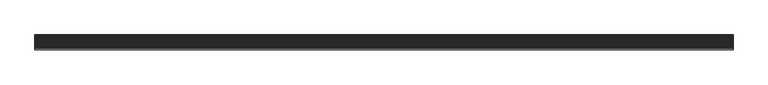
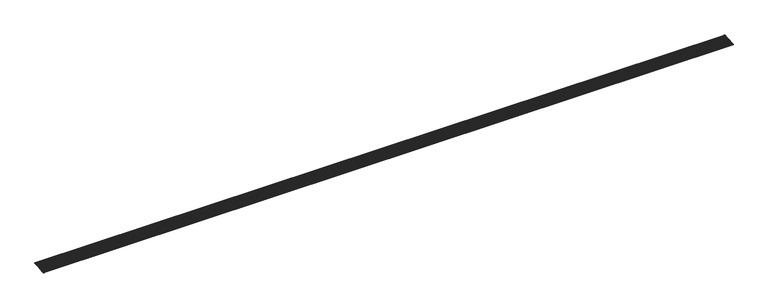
"""IFC4 building model written with IfcOpenShell, lengths in millimetres: slab geometry, ROSA GRES_001 (2 filas) : Piezas 001_Aqua_Blanco_Anti-Slip."""

from ifc_helpers import new_model, si_unit, point, frame, frame_2d, origin, place, context, project, spatial, polyline, circle_curve, trimmed, segment, composite_curve, outline, extrude, source, transform, mapped, element, save


def slab_2bb9063e(model_context):
    return source(origin(), model_context, "Body", "SweptSolid", [
        extrude(outline(polyline([(0.0, -118.9996), (0.0, 0.0), (11460.0, 0.0), (11460.0, -118.9996), (0.0, -118.9996)])), frame((11460.0, 124.0577627, 199.6968204), z_axis=(0.0, -0.08112705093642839, 0.9967037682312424), x_axis=(-1.0, 0.0, 0.0)), (0.0, 0.0, 1.0), 5.0),
        extrude(outline(polyline([(0.0, -118.9996), (0.0, 0.0), (11460.0, 0.0), (11460.0, -118.9996), (0.0, -118.9996)])), frame((11460.0, 248.6453351, 209.8376693), z_axis=(0.0, -0.08112705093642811, 0.9967037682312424), x_axis=(-1.0, 0.0, 0.0)), (0.0, 0.0, 1.0), 5.0),
        extrude(outline(composite_curve([segment(polyline([(242.2594772, 214.3344258), (123.6521274, 204.6803392), (123.4389282, 207.2996439)]), True, "CONTINUOUS"), segment(trimmed(circle_curve(frame_2d((122.9853249, 212.8724843)), 5.5912705), [point((123.4389282, 207.2996439))], [point((127.5160501, 209.5960785))], True, "CARTESIAN"), True, "CONTINUOUS"), segment(trimmed(circle_curve(frame_2d((131.4572785, 213.5620619)), 5.5912705), [point((127.5160501, 209.5960785))], [point((135.9880037, 210.2856561))], True, "CARTESIAN"), True, "CONTINUOUS"), segment(trimmed(circle_curve(frame_2d((139.929232, 214.2516395)), 5.5912705), [point((135.9880037, 210.2856561))], [point((144.4599572, 210.9752337))], True, "CARTESIAN"), True, "CONTINUOUS"), segment(trimmed(circle_curve(frame_2d((148.4011856, 214.9412171)), 5.5912705), [point((144.4599572, 210.9752337))], [point((152.9319108, 211.6648113))], True, "CARTESIAN"), True, "CONTINUOUS"), segment(trimmed(circle_curve(frame_2d((156.8731392, 215.6307947)), 5.5912705), [point((152.9319108, 211.6648113))], [point((161.4038643, 212.3543889))], True, "CARTESIAN"), True, "CONTINUOUS"), segment(trimmed(circle_curve(frame_2d((165.3450927, 216.3203723)), 5.5912705), [point((161.4038643, 212.3543889))], [point((169.8758179, 213.0439666))], True, "CARTESIAN"), True, "CONTINUOUS"), segment(trimmed(circle_curve(frame_2d((173.8170463, 217.00995)), 5.5912705), [point((169.8758179, 213.0439666))], [point((178.3477714, 213.7335442))], True, "CARTESIAN"), True, "CONTINUOUS"), segment(trimmed(circle_curve(frame_2d((182.2889998, 217.6995276)), 5.5912705), [point((178.3477714, 213.7335442))], [point((186.819725, 214.4231218))], True, "CARTESIAN"), True, "CONTINUOUS"), segment(trimmed(circle_curve(frame_2d((190.7609534, 218.3891052)), 5.5912705), [point((186.819725, 214.4231218))], [point((195.2916785, 215.1126994))], True, "CARTESIAN"), True, "CONTINUOUS"), segment(trimmed(circle_curve(frame_2d((199.2329069, 219.0786828)), 5.5912705), [point((195.2916785, 215.1126994))], [point((203.7636321, 215.802277))], True, "CARTESIAN"), True, "CONTINUOUS"), segment(trimmed(circle_curve(frame_2d((207.7048605, 219.7682604)), 5.5912705), [point((203.7636321, 215.802277))], [point((212.2355856, 216.4918546))], True, "CARTESIAN"), True, "CONTINUOUS"), segment(trimmed(circle_curve(frame_2d((216.176814, 220.457838)), 5.5912705), [point((212.2355856, 216.4918546))], [point((220.7075392, 217.1814322))], True, "CARTESIAN"), True, "CONTINUOUS"), segment(trimmed(circle_curve(frame_2d((224.6487676, 221.1474157)), 5.5912705), [point((220.7075392, 217.1814322))], [point((229.1794928, 217.8710099))], True, "CARTESIAN"), True, "CONTINUOUS"), segment(trimmed(circle_curve(frame_2d((233.1207211, 221.8369933)), 5.5912705), [point((229.1794928, 217.8710099))], [point((237.6514463, 218.5605875))], True, "CARTESIAN"), True, "CONTINUOUS"), segment(trimmed(circle_curve(frame_2d((241.5926747, 222.5265709)), 5.5912705), [point((237.6514463, 218.5605875))], [point((242.046278, 216.9537305))], True, "CARTESIAN"), True, "CONTINUOUS"), segment(polyline([(242.046278, 216.9537305), (242.2594772, 214.3344258)]), True, "CONTINUOUS")], self_intersect=False)), frame((0.0, 0.0, 0.0), z_axis=(1.0, 0.0, 0.0), x_axis=(0.0, 1.0, 0.0)), (0.0, 0.0, 1.0), 11460.0),
        extrude(outline(composite_curve([segment(polyline([(366.8470495, 224.4752747), (248.2396998, 214.8211881), (248.0265006, 217.4404928)]), True, "CONTINUOUS"), segment(trimmed(circle_curve(frame_2d((247.5728973, 223.0133332)), 5.5912705), [point((248.0265006, 217.4404928))], [point((252.1036225, 219.7369274))], True, "CARTESIAN"), True, "CONTINUOUS"), segment(trimmed(circle_curve(frame_2d((256.0448508, 223.7029108)), 5.5912705), [point((252.1036225, 219.7369274))], [point((260.575576, 220.426505))], True, "CARTESIAN"), True, "CONTINUOUS"), segment(trimmed(circle_curve(frame_2d((264.5168044, 224.3924884)), 5.5912705), [point((260.575576, 220.426505))], [point((269.0475296, 221.1160826))], True, "CARTESIAN"), True, "CONTINUOUS"), segment(trimmed(circle_curve(frame_2d((272.9887579, 225.082066)), 5.5912705), [point((269.0475296, 221.1160826))], [point((277.5194831, 221.8056602))], True, "CARTESIAN"), True, "CONTINUOUS"), segment(trimmed(circle_curve(frame_2d((281.4607115, 225.7716436)), 5.5912705), [point((277.5194831, 221.8056602))], [point((285.9914367, 222.4952379))], True, "CARTESIAN"), True, "CONTINUOUS"), segment(trimmed(circle_curve(frame_2d((289.9326651, 226.4612213)), 5.5912705), [point((285.9914367, 222.4952379))], [point((294.4633902, 223.1848155))], True, "CARTESIAN"), True, "CONTINUOUS"), segment(trimmed(circle_curve(frame_2d((298.4046186, 227.1507989)), 5.5912705), [point((294.4633902, 223.1848155))], [point((302.9353438, 223.8743931))], True, "CARTESIAN"), True, "CONTINUOUS"), segment(trimmed(circle_curve(frame_2d((306.8765722, 227.8403765)), 5.5912705), [point((302.9353438, 223.8743931))], [point((311.4072973, 224.5639707))], True, "CARTESIAN"), True, "CONTINUOUS"), segment(trimmed(circle_curve(frame_2d((315.3485257, 228.5299541)), 5.5912705), [point((311.4072973, 224.5639707))], [point((319.8792509, 225.2535483))], True, "CARTESIAN"), True, "CONTINUOUS"), segment(trimmed(circle_curve(frame_2d((323.8204793, 229.2195317)), 5.5912705), [point((319.8792509, 225.2535483))], [point((328.3512044, 225.9431259))], True, "CARTESIAN"), True, "CONTINUOUS"), segment(trimmed(circle_curve(frame_2d((332.2924328, 229.9091093)), 5.5912705), [point((328.3512044, 225.9431259))], [point((336.823158, 226.6327035))], True, "CARTESIAN"), True, "CONTINUOUS"), segment(trimmed(circle_curve(frame_2d((340.7643864, 230.5986869)), 5.5912705), [point((336.823158, 226.6327035))], [point((345.2951115, 227.3222812))], True, "CARTESIAN"), True, "CONTINUOUS"), segment(trimmed(circle_curve(frame_2d((349.2363399, 231.2882646)), 5.5912705), [point((345.2951115, 227.3222812))], [point((353.7670651, 228.0118588))], True, "CARTESIAN"), True, "CONTINUOUS"), segment(trimmed(circle_curve(frame_2d((357.7082935, 231.9778422)), 5.5912705), [point((353.7670651, 228.0118588))], [point((362.2390187, 228.7014364))], True, "CARTESIAN"), True, "CONTINUOUS"), segment(trimmed(circle_curve(frame_2d((366.180247, 232.6674198)), 5.5912705), [point((362.2390187, 228.7014364))], [point((366.6338503, 227.0945794))], True, "CARTESIAN"), True, "CONTINUOUS"), segment(polyline([(366.6338503, 227.0945794), (366.8470495, 224.4752747)]), True, "CONTINUOUS")], self_intersect=False)), frame((0.0, 0.0, 0.0), z_axis=(1.0, 0.0, 0.0), x_axis=(0.0, 1.0, 0.0)), (0.0, 0.0, 1.0), 11460.0),
    ])


if __name__ == "__main__":
    model = new_model("IFC4")
    model_context = context("Model", 3, world=origin())
    ifc_project = project(units=[si_unit("LENGTHUNIT", "METRE", prefix="MILLI")], contexts=[model_context])
    site = spatial("IfcSite", under=ifc_project)
    building = spatial("IfcBuilding", under=site)
    placement = place(None, origin())
    slab_shape = slab_2bb9063e(model_context)
    element("IfcSlab", 1, ObjectType="ROSA GRES_001 (2 filas) : Piezas 001_Aqua_Blanco_Anti-Slip", at=placement, inside=building, context=model_context, shape_type="MappedRepresentation", body=[
        mapped(slab_shape, transform((0.0, 0.0, 0.0), x_axis=(1.0, 0.0, 0.0), y_axis=(0.0, 1.0, 0.0), z_axis=(0.0, 0.0, 1.0))),
    ])
    save(model, "model.ifc")
